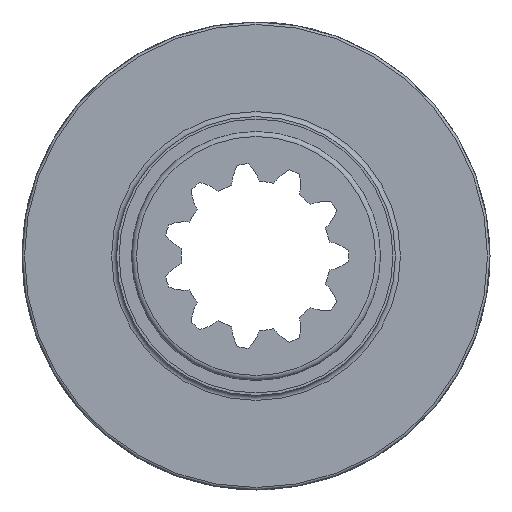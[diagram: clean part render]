
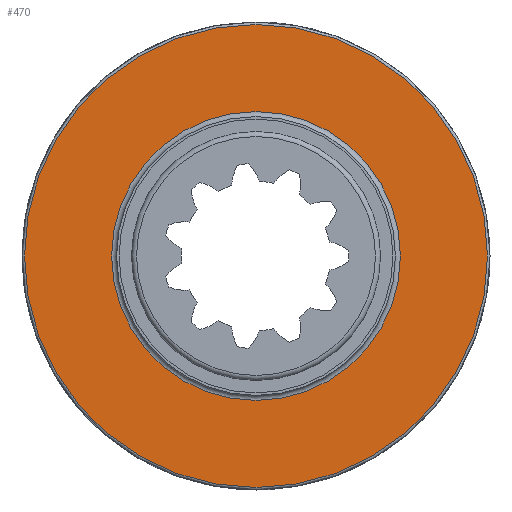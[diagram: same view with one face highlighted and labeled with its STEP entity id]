
A CAD part, front view. The second image highlights one B-rep face of the part: STEP entity #470.
In plain terms, the highlighted planar face has unit normal (0, -1, 0).
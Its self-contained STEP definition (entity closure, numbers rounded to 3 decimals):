
#71=FACE_BOUND('',#734,.T.);
#72=FACE_BOUND('',#735,.T.);
#351=CIRCLE('',#2317,14.5);
#352=CIRCLE('',#2318,23.25);
#470=ADVANCED_FACE('',(#71,#72),#528,.F.);
#528=PLANE('',#2319);
#734=EDGE_LOOP('',(#1197));
#735=EDGE_LOOP('',(#1198));
#1197=ORIENTED_EDGE('',*,*,#1861,.T.);
#1198=ORIENTED_EDGE('',*,*,#1862,.T.);
#1589=VERTEX_POINT('',#3729);
#1590=VERTEX_POINT('',#3731);
#1861=EDGE_CURVE('',#1589,#1589,#351,.T.);
#1862=EDGE_CURVE('',#1590,#1590,#352,.T.);
#2317=AXIS2_PLACEMENT_3D('',#3728,#2941,#2942);
#2318=AXIS2_PLACEMENT_3D('',#3730,#2943,#2944);
#2319=AXIS2_PLACEMENT_3D('',#3732,#2945,#2946);
#2941=DIRECTION('',(0.,1.,0.));
#2942=DIRECTION('',(0.,0.,1.));
#2943=DIRECTION('',(0.,-1.,0.));
#2944=DIRECTION('',(0.,0.,1.));
#2945=DIRECTION('',(0.,1.,0.));
#2946=DIRECTION('',(-1.,0.,0.));
#3728=CARTESIAN_POINT('',(0.,-207.283,0.));
#3729=CARTESIAN_POINT('',(0.,-207.283,14.5));
#3730=CARTESIAN_POINT('',(0.,-207.283,0.));
#3731=CARTESIAN_POINT('',(0.,-207.283,23.25));
#3732=CARTESIAN_POINT('',(0.,-207.283,0.));
